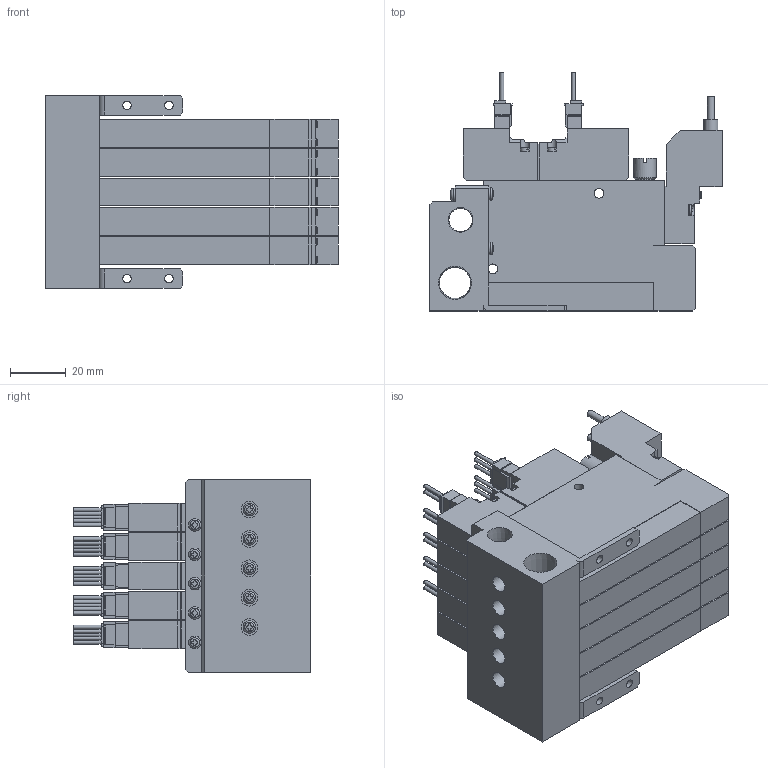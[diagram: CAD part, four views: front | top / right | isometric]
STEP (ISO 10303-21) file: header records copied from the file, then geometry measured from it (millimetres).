
FILE_DESCRIPTION(('STEP AP203'),'1');
FILE_NAME('V8C5WC505_3D.stp','2024-09-04T22:52:03',(' '),(' '),'Spatial InterOp 3D',' ',' ');
FILE_SCHEMA(('CONFIG_CONTROL_DESIGN'));
Length unit declared in the file: millimetre
Products named in the file (5): BSC1M※※V8C5WC505; Solenoid valve W; Pressure Sensor V8; Unit-C; BaseMC50R
Assembly tree (16 placements, depth 2):
  BSC1M※※V8C5WC505
    Solenoid valve W  x5
    Pressure Sensor V8  x5
    Unit-C  x5
    BaseMC50R
Bounding box: 104.5 x 85.05 x 69 mm (x, y, z)
Volume: 292431.3 mm3; surface area: 102555 mm2
Topology: 16 solids, 16 shells, 2022 faces, 5411 edges, 3580 vertices
Faces by surface type: plane 1552, cylinder 363, cone 49, torus 34, sphere 24
Full cylindrical faces by diameter (mm): 1.4 x25, 2.5 x25, 3 x24, 3.5 x30, 4 x5, 4.134 x10, 4.5 x14, 5 x5, 5.5 x5, 6 x5, 7 x10, 8 x5, 8.422 x1, 11.233 x1
Entity records: 19443 total; most frequent: CARTESIAN_POINT 4449, DIRECTION 2990, ORIENTED_EDGE 2892, EDGE_CURVE 1446, VERTEX_POINT 1024, AXIS2_PLACEMENT_3D 1012, LINE 966, VECTOR 966
